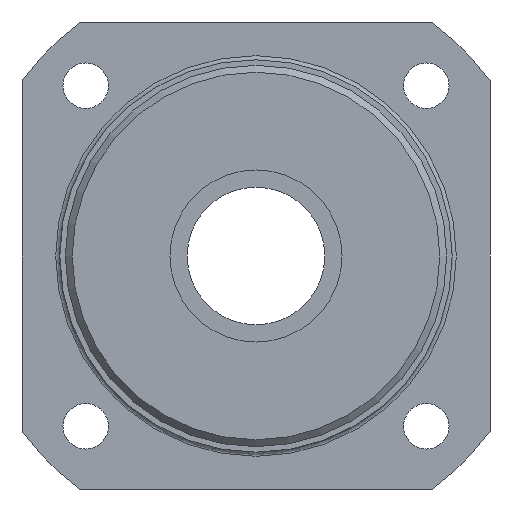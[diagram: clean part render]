
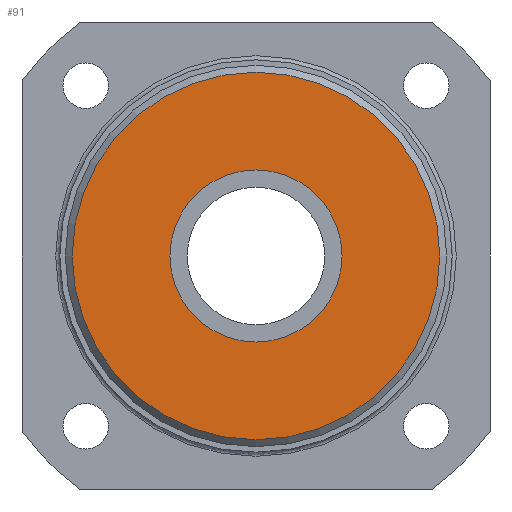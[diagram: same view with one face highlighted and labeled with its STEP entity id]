
A CAD part, left-side view. The second image highlights one B-rep face of the part: STEP entity #91.
In plain terms, the highlighted planar face has unit normal (-1, 0, 0).
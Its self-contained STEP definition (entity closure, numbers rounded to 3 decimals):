
#49=CARTESIAN_POINT('',(-52.,26.7,0.));
#50=VERTEX_POINT('',#49);
#51=CARTESIAN_POINT('',(-52.,0.0,0.0));
#52=DIRECTION('',(1.0,0.0,0.0));
#53=DIRECTION('',(0.0,-1.0,0.0));
#54=AXIS2_PLACEMENT_3D('',#51,#52,#53);
#55=CIRCLE('',#54,26.7);
#56=EDGE_CURVE('',#50,#50,#55,.T.);
#72=CARTESIAN_POINT('',(-52.,13.85,0.0));
#73=DIRECTION('',(-1.0,0.0,0.0));
#74=DIRECTION('',(0.0,0.0,1.0));
#75=AXIS2_PLACEMENT_3D('',#72,#73,#74);
#76=PLANE('',#75);
#77=ORIENTED_EDGE('',*,*,#56,.F.);
#78=EDGE_LOOP('',(#77));
#79=FACE_OUTER_BOUND('',#78,.T.);
#80=CARTESIAN_POINT('',(-52.0,12.5,0.0));
#81=VERTEX_POINT('',#80);
#82=CARTESIAN_POINT('',(-52.,0.,0.0));
#83=DIRECTION('',(1.0,0.,0.0));
#84=DIRECTION('',(0.,1.0,0.0));
#85=AXIS2_PLACEMENT_3D('',#82,#83,#84);
#86=CIRCLE('',#85,12.5);
#87=EDGE_CURVE('',#81,#81,#86,.T.);
#88=ORIENTED_EDGE('',*,*,#87,.T.);
#89=EDGE_LOOP('',(#88));
#90=FACE_BOUND('',#89,.T.);
#91=ADVANCED_FACE('',(#79,#90),#76,.T.);
